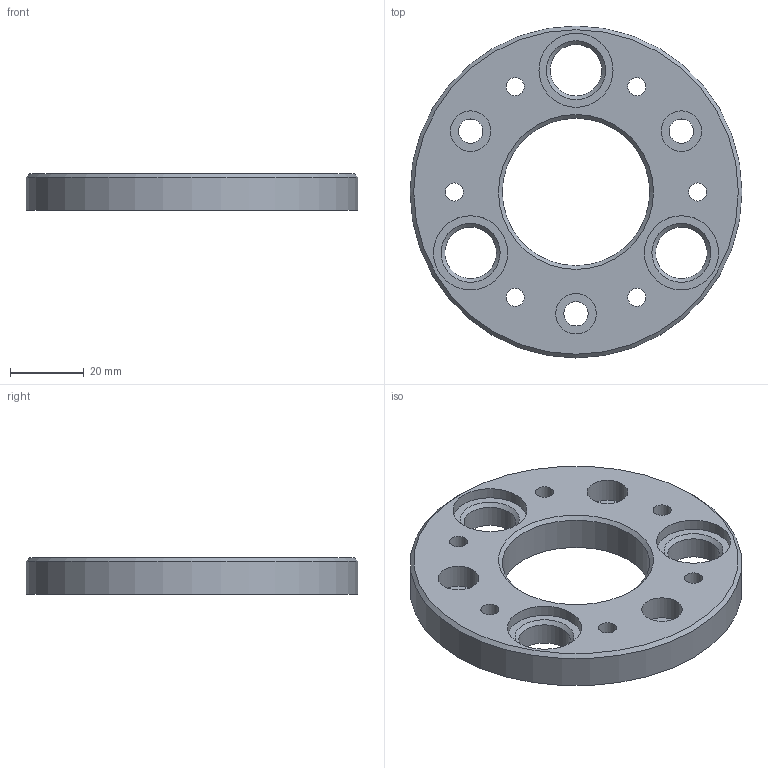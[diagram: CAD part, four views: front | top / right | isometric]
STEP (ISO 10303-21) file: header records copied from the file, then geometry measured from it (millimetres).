
FILE_DESCRIPTION(/* description */ (''),/* implementation_level */ '2;1');
FILE_NAME(/* name */ '',/* time_stamp */ '2026-04-27T11:21:31+09:00',/* author */ ('jhkim'),/* organization */ (''),/* preprocessor_version */ 'ST-DEVELOPER v20.1',/* originating_system */ 'Autodesk Inventor 2027',/* authorisation */ '');
FILE_SCHEMA (('AUTOMOTIVE_DESIGN { 1 0 10303 214 3 1 1 }'));
Length unit declared in the file: millimetre
Products named in the file (1): 유성 캐리어 커버
Bounding box: 90 x 90 x 10 mm (x, y, z)
Volume: 41319.2 mm3; surface area: 15939.4 mm2
Topology: 1 solids, 1 shells, 33 faces, 74 edges, 49 vertices
Faces by surface type: cylinder 20, plane 8, cone 5
Full cylindrical faces by diameter (mm): 4.917 x6, 6.6 x3, 11 x3, 14 x3, 20.1 x3, 40 x1, 90 x1
Entity records: 1044 total; most frequent: DIRECTION 191, CARTESIAN_POINT 157, ORIENTED_EDGE 148, AXIS2_PLACEMENT_3D 83, EDGE_CURVE 74, EDGE_LOOP 65, CIRCLE 49, VERTEX_POINT 49
